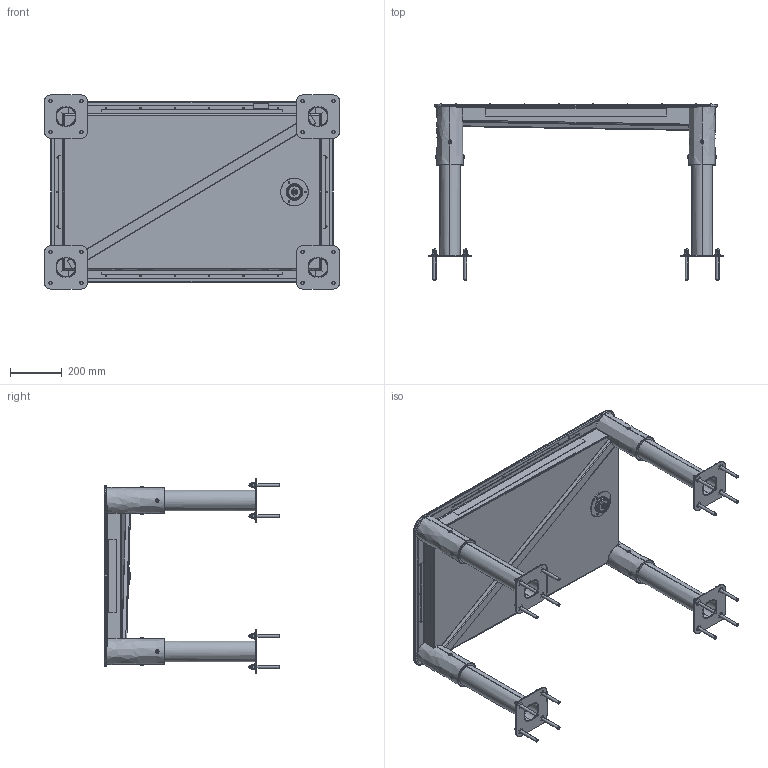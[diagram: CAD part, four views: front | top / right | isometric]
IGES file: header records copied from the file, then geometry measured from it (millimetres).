
Start section: SolidWorks IGES file using analytic representation for surfaces
Global section: file name: C:\Users\user18\OneDrive - KBT\Pulpit\KORONA-KOPIA\Water_Arek_Karol\XXX. Basic Water System\570.202.030.01x Mud Pool - 59cm\11. Modele 3D dla klientów\570.202.030.011 - Mud pool 59cm FA.IGS; native system: SolidWorks 2018; preprocessor: SolidWorks 2018; author: user18; date: 210325.092252; units: millimetre
Bounding box: 1148 x 682.1 x 755 mm (x, y, z)
Surface area: 3946444.6 mm2 (no closed solid volume)
Topology: 0 solids, 0 shells, 1185 faces, 17856 edges, 17822 vertices
Faces by surface type: revolution 619, bspline 566
